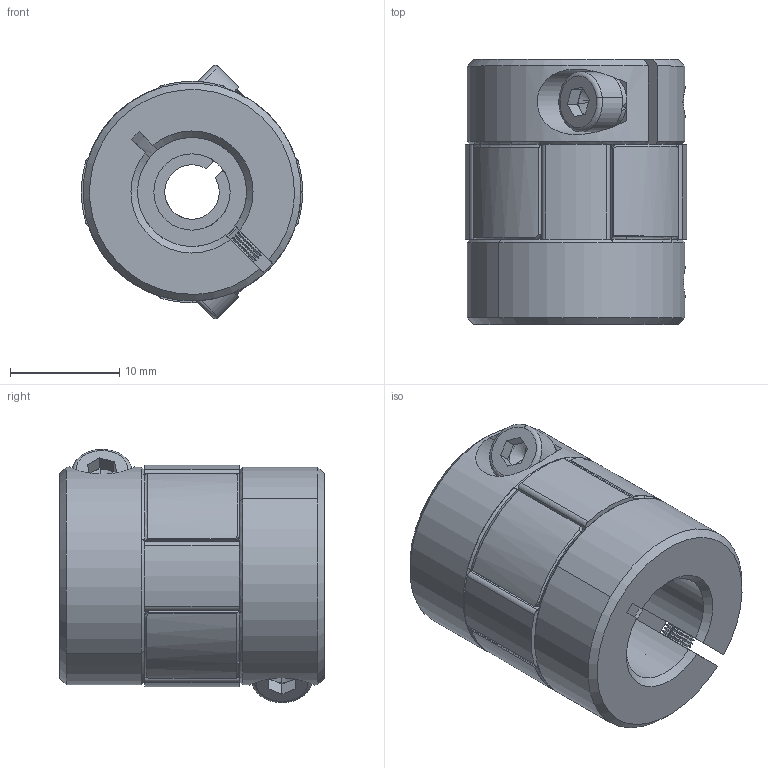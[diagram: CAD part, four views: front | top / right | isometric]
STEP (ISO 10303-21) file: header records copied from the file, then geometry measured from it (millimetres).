
FILE_DESCRIPTION (( 'STEP AP203' ), '1' );
FILE_NAME ('LF-B-D20L25-5-10.STEP', '2021-10-21T01:30:52', ( '' ), ( '' ), 'SwSTEP 2.0', 'SolidWorks 2018', '' );
FILE_SCHEMA (( 'CONFIG_CONTROL_DESIGN' ));
Length unit declared in the file: millimetre
Products named in the file (1): LF-B-D20L25-5-10
Bounding box: 20.31 x 24.3 x 23.23 mm (x, y, z)
Volume: 6293.7 mm3; surface area: 3604.2 mm2
Topology: 1 solids, 1 shells, 431 faces, 1082 edges, 642 vertices
Faces by surface type: cylinder 167, cone 158, plane 94, torus 12
Entity records: 13230 total; most frequent: CARTESIAN_POINT 2754, DIRECTION 2333, ORIENTED_EDGE 2156, EDGE_CURVE 1078, AXIS2_PLACEMENT_3D 959, VERTEX_POINT 642, CIRCLE 527, EDGE_LOOP 446
